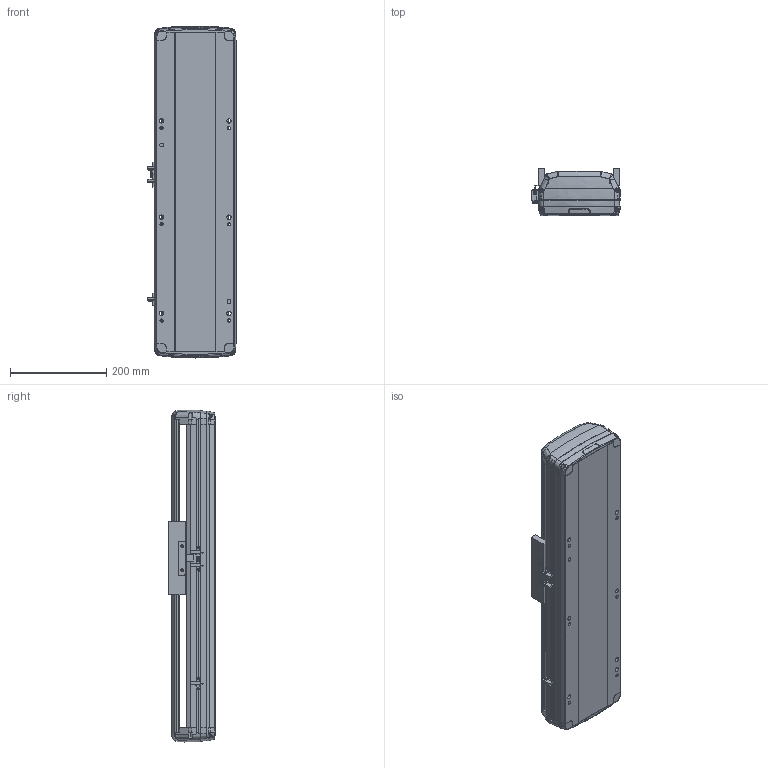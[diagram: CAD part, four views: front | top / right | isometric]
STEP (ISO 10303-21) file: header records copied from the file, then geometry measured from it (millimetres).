
FILE_DESCRIPTION (( 'STEP AP214' ), '1' );
FILE_NAME ('RTH17-XX-250-B-M40B-C4.STEP', '2025-10-24T09:13:29', ( '' ), ( '' ), 'SwSTEP 2.0', 'SolidWorks 2018', '' );
FILE_SCHEMA (( 'AUTOMOTIVE_DESIGN' ));
Length unit declared in the file: millimetre
Products named in the file (7): N_RTH17-E-004丝杆螺母连接座^RTH17-XX-XX-B-M40B-C4（方程式）; RTH17-XX-250-B-M40B-C4; N_RTH17-M-011B底座^RTH17-XX-XX-B-M40B-C4（方程式）; N_OMRON EE-SX672 換覜ん^RTH17-XX-XX-B-M40B-C4ㄗ源最宒ㄘ; N_RTH17-GY-001P^RTH17-XX-XX-B-M40B-C4（方程式）; N_RTH-L-012 感应片(外置)^RTH17-XX-XX-B-M40B-C4（方程式）; N_RTH17-M-007B上盖^RTH17-XX-XX-B-M40B-C4（方程式）
Assembly tree (9 placements, depth 2):
  RTH17-XX-250-B-M40B-C4
    N_RTH17-M-011B底座^RTH17-XX-XX-B-M40B-C4（方程式）
    N_RTH17-M-007B上盖^RTH17-XX-XX-B-M40B-C4（方程式）
    N_OMRON EE-SX672 換覜ん^RTH17-XX-XX-B-M40B-C4ㄗ源最宒ㄘ  x3
    N_RTH-L-012 感应片(外置)^RTH17-XX-XX-B-M40B-C4（方程式）
    N_RTH17-E-004丝杆螺母连接座^RTH17-XX-XX-B-M40B-C4（方程式）
    N_RTH17-GY-001P^RTH17-XX-XX-B-M40B-C4（方程式）  x2
Bounding box: 183.5 x 97 x 690.04 mm (x, y, z)
Volume: 5277390.1 mm3; surface area: 780463.9 mm2
Topology: 7 solids, 11 shells, 1688 faces, 4718 edges, 3062 vertices
Faces by surface type: plane 805, bspline 420, cylinder 417, cone 28, torus 18
Entity records: 38742 total; most frequent: CARTESIAN_POINT 16281, ORIENTED_EDGE 4940, DIRECTION 3886, EDGE_CURVE 2474, VERTEX_POINT 1616, VECTOR 1382, LINE 1382, AXIS2_PLACEMENT_3D 1252
